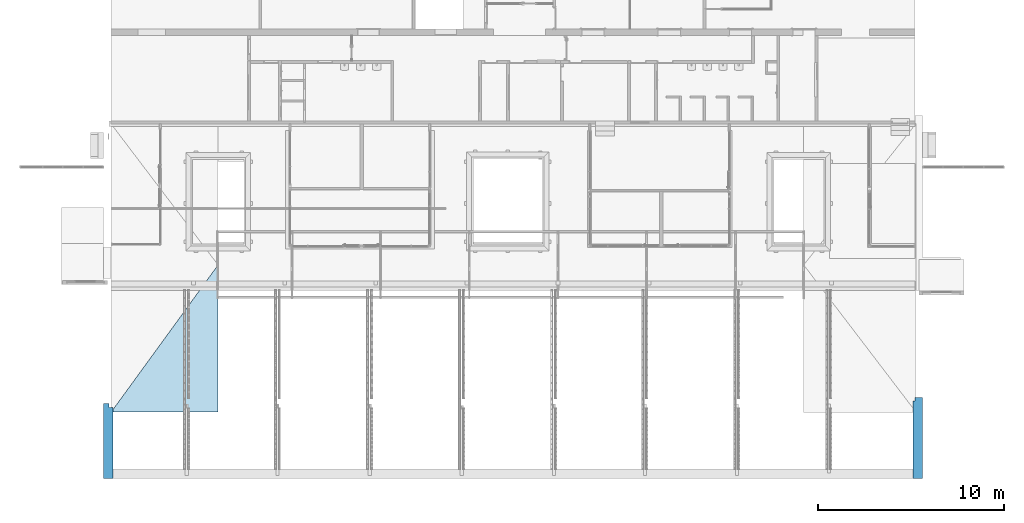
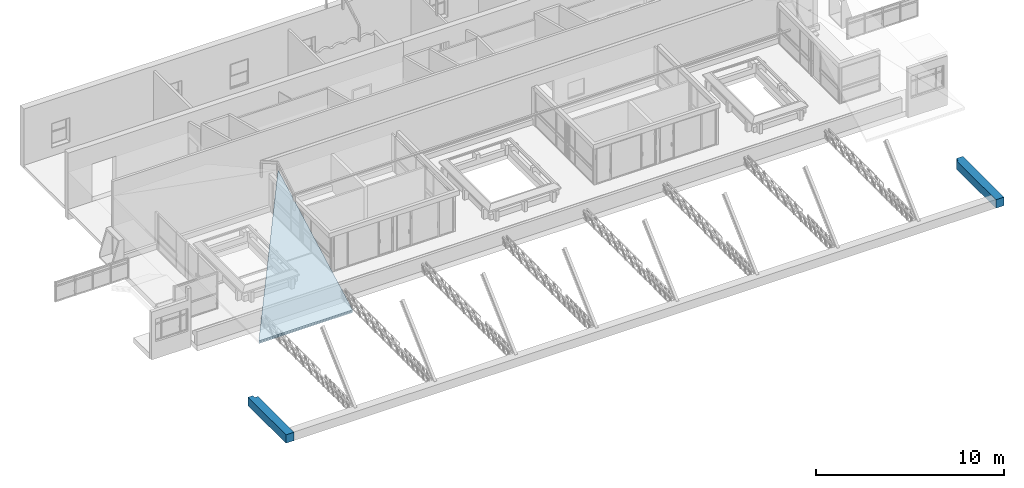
# One storey, part 101 of 153: 2 beams, 1 slab, 1 element without a shape of its own.
"""IFC4 building model written with IfcOpenShell, lengths in metres."""

from ifc_helpers import new_model, entity, si_unit, converted_unit, derived_unit, direction, frame, origin, place, context, subcontext, project, spatial, indexed_curve, outline, extrude, polygons, source, transform, mapped, material, constituent, constituent_set, type_object, type_shapes, element, aggregate, save


model = new_model("IFC4")

# Units and contexts
model_context = context("Model", 3, precision=1e-05, world=origin(), true_north=direction((6.123031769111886e-17, 1.0)))
body_context = subcontext(model_context, "Body", "Model", "MODEL_VIEW")
ifc_project = project(units=[si_unit("LENGTHUNIT", "METRE"), si_unit("AREAUNIT", "SQUARE_METRE"), si_unit("VOLUMEUNIT", "CUBIC_METRE"), converted_unit("PLANEANGLEUNIT", "DEGREE", entity("IfcRatioMeasure", 0.017453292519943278), si_unit("PLANEANGLEUNIT", "RADIAN"), dimensions=[0, 0, 0, 0, 0, 0, 0]), si_unit("MASSUNIT", "GRAM", prefix="KILO"), derived_unit("MASSDENSITYUNIT", [(si_unit("MASSUNIT", "GRAM", prefix="KILO"), 1), (si_unit("LENGTHUNIT", "METRE"), -3)]), derived_unit("MOMENTOFINERTIAUNIT", [(si_unit("LENGTHUNIT", "METRE"), 4)]), si_unit("TIMEUNIT", "SECOND"), si_unit("FREQUENCYUNIT", "HERTZ"), si_unit("THERMODYNAMICTEMPERATUREUNIT", "DEGREE_CELSIUS"), derived_unit("THERMALTRANSMITTANCEUNIT", [(si_unit("MASSUNIT", "GRAM", prefix="KILO"), 1), (si_unit("THERMODYNAMICTEMPERATUREUNIT", "KELVIN"), -1), (si_unit("TIMEUNIT", "SECOND"), -3)]), derived_unit("VOLUMETRICFLOWRATEUNIT", [(si_unit("LENGTHUNIT", "METRE"), 3), (si_unit("TIMEUNIT", "SECOND"), -1)]), derived_unit("MASSFLOWRATEUNIT", [(si_unit("MASSUNIT", "GRAM", prefix="KILO"), 1), (si_unit("TIMEUNIT", "SECOND"), -1)]), derived_unit("ROTATIONALFREQUENCYUNIT", [(si_unit("TIMEUNIT", "SECOND"), -1)]), si_unit("ELECTRICCURRENTUNIT", "AMPERE"), si_unit("ELECTRICVOLTAGEUNIT", "VOLT"), si_unit("POWERUNIT", "WATT"), si_unit("FORCEUNIT", "NEWTON", prefix="KILO"), si_unit("ILLUMINANCEUNIT", "LUX"), si_unit("LUMINOUSFLUXUNIT", "LUMEN"), si_unit("LUMINOUSINTENSITYUNIT", "CANDELA"), derived_unit("USERDEFINED", [(si_unit("MASSUNIT", "GRAM", prefix="KILO"), -1), (si_unit("LENGTHUNIT", "METRE"), -2), (si_unit("TIMEUNIT", "SECOND"), 3), (si_unit("LUMINOUSFLUXUNIT", "LUMEN"), 1)]), derived_unit("SOUNDPOWERUNIT", [(si_unit("MASSUNIT", "GRAM", prefix="KILO"), 1), (si_unit("LENGTHUNIT", "METRE"), 2), (si_unit("TIMEUNIT", "SECOND"), -3)]), derived_unit("SOUNDPRESSUREUNIT", [(si_unit("MASSUNIT", "GRAM", prefix="KILO"), 1), (si_unit("LENGTHUNIT", "METRE"), -1), (si_unit("TIMEUNIT", "SECOND"), -2)]), derived_unit("LINEARVELOCITYUNIT", [(si_unit("LENGTHUNIT", "METRE"), 1), (si_unit("TIMEUNIT", "SECOND"), -1)]), si_unit("PRESSUREUNIT", "PASCAL"), derived_unit("USERDEFINED", [(si_unit("LENGTHUNIT", "METRE"), -2), (si_unit("MASSUNIT", "GRAM", prefix="KILO"), 1), (si_unit("TIMEUNIT", "SECOND"), -2)]), derived_unit("LINEARFORCEUNIT", [(si_unit("MASSUNIT", "GRAM", prefix="KILO"), 1), (si_unit("LENGTHUNIT", "METRE"), 1), (si_unit("TIMEUNIT", "SECOND"), -2), (si_unit("LENGTHUNIT", "METRE"), -1)]), derived_unit("PLANARFORCEUNIT", [(si_unit("MASSUNIT", "GRAM", prefix="KILO"), 1), (si_unit("LENGTHUNIT", "METRE"), 1), (si_unit("TIMEUNIT", "SECOND"), -2), (si_unit("LENGTHUNIT", "METRE"), -2)])], contexts=[model_context])

# Site, building, storey
site_placement = place(None, origin())
site = spatial("IfcSite", under=ifc_project, at=site_placement, Name="Superficie", CompositionType="ELEMENT")
building_placement = place(site_placement, origin())
building = spatial("IfcBuilding", under=site, at=building_placement, CompositionType="ELEMENT")
storey_placement = place(building_placement, frame((0.0, 0.0, 3.5999999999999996)))
storey = spatial("IfcBuildingStorey", under=building, at=storey_placement, Name="Nivel 1", CompositionType="ELEMENT", Elevation=3.5999999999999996)

# Beams
ifc_material_1 = material(Name="<Unnamed>")
beam_type_1 = type_object("IfcBeamType", Name="Hormigón-Viga rectangular:500 x 550mm 2", PredefinedType="BEAM", material=ifc_material_1)
shared_shape_1 = source(origin(), body_context, "Body", "Tessellation", [
    polygons([(0.4999999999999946, 0.0, 0.55), (-4.331468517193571e-15, 0.0, 0.55), (-4.331468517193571e-15, 0.0, -5.414335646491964e-16), (0.49999999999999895, 0.0, 5.414335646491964e-16), (0.5000000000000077, 4.355400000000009, 0.55), (0.5000000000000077, 4.355400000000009, 5.414335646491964e-16), (0.10000000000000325, 4.355400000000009, -5.414335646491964e-16), (0.10000000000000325, 4.355400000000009, 0.55), (0.10000000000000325, 4.157699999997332, 0.55), (4.331468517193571e-15, 4.157699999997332, 0.55), (4.331468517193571e-15, 4.157699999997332, 5.414335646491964e-16), (0.10000000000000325, 4.157699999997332, 5.414335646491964e-16)], [[[1, 2, 3, 4]], [[5, 6, 7, 8]], [[2, 1, 5, 8, 9, 10]], [[3, 2, 10, 11]], [[4, 3, 11, 12, 7, 6]], [[1, 4, 6, 5]], [[9, 12, 11, 10]], [[12, 9, 8, 7]]], closed=True),
])
type_shapes(beam_type_1, [shared_shape_1])
beam_1_placement = place(storey_placement, frame((20.486799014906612, -13.451870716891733, -0.05000000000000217)))
element("IfcBeam", 1, at=beam_1_placement, inside=storey, type_object=beam_type_1, material=ifc_material_1, Name="Hormigón-Viga rectangular:500 x 550mm 2", ObjectType="Hormigón-Viga rectangular:500 x 550mm 2", PredefinedType="BEAM", context=body_context, shape_type="MappedRepresentation", body=[
    mapped(shared_shape_1, transform((0.0, 0.0, 0.0), scale=1.0)),
])
beam_type_2 = type_object("IfcBeamType", Name="Hormigón-Viga rectangular:500 x 550mm 2", PredefinedType="BEAM", material=ifc_material_1)
shared_shape_2 = source(origin(), body_context, "Body", "Tessellation", [
    polygons([(0.5000000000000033, 0.0, 0.55), (0.0, 0.0, 0.55), (0.0, 0.0, -5.414335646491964e-16), (0.5000000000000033, 0.0, 5.414335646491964e-16), (8.662937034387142e-15, 4.025400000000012, -5.414335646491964e-16), (8.662937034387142e-15, 4.025400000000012, 0.55), (0.28999999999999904, 4.025400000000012, 0.55), (0.28999999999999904, 4.025400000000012, -5.414335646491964e-16), (0.5000000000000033, 3.827700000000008, 0.55), (0.28999999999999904, 3.827700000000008, 0.55), (0.28999999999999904, 3.827700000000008, -5.414335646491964e-16), (0.5000000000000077, 3.827700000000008, 5.414335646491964e-16)], [[[1, 2, 3, 4]], [[5, 6, 7, 8]], [[2, 1, 9, 10, 7, 6]], [[3, 2, 6, 5]], [[4, 3, 5, 8, 11, 12]], [[1, 4, 12, 9]], [[11, 10, 9, 12]], [[10, 11, 8, 7]]], closed=True),
])
type_shapes(beam_type_2, [shared_shape_2])
beam_2_placement = place(storey_placement, frame((-23.043200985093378, -13.451870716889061, -0.05000000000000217)))
element("IfcBeam", 2, at=beam_2_placement, inside=storey, type_object=beam_type_2, material=ifc_material_1, Name="Hormigón-Viga rectangular:500 x 550mm 2", ObjectType="Hormigón-Viga rectangular:500 x 550mm 2", PredefinedType="BEAM", context=body_context, shape_type="MappedRepresentation", body=[
    mapped(shared_shape_2, transform((0.0, 0.0, 0.0), scale=1.0)),
])

# Roof, slab
roof_placement = place(storey_placement, frame((-22.643200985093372, -9.877877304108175, 4.107718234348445)))
roof = element("IfcRoof", 3, at=roof_placement, inside=storey, Name="Cubierta básica:Plana tipo deck - 16 cm", ObjectType="Cubierta básica:Plana tipo deck - 16 cm", PredefinedType="NOTDEFINED")
ifc_material_2 = material(Name="Aislamiento térmico", Category="Varios")
ifc_constituent_1 = constituent(ifc_material_2, Name="Aislamiento térmico", Category="Varios")
ifc_material_3 = material(Name="Metal - Chapado (1)", Category="Metal")
ifc_constituent_2 = constituent(ifc_material_3, Name="Metal - Chapado (1)", Category="Metal")
ifc_constituent_set = constituent_set(constituents=[ifc_constituent_1, ifc_constituent_2], Name="Cubierta básica:Plana tipo deck - 16 cm")
slab_type = type_object("IfcSlabType", Name="Cubierta básica:Plana tipo deck - 16 cm", PredefinedType="ROOF")
slab_placement = place(roof_placement, origin())
slab = element("IfcSlab", 4, at=slab_placement, type_object=slab_type, material=ifc_constituent_set, Name="Cubierta básica:Plana tipo deck - 16 cm", ObjectType="Cubierta básica:Plana tipo deck - 16 cm", PredefinedType="ROOF", context=body_context, shape_type="SweptSolid", body=[
    extrude(outline(indexed_curve([(-2.8750004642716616, -4.498351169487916), (2.875000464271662, -4.4965853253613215), (2.875000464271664, 4.498351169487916), (-2.8750004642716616, -4.498351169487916)], self_intersect=False)), frame((2.874999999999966, 3.9567115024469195, 2.1400000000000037), z_axis=(-0.0005683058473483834, -0.47541024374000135, 0.8797640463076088), x_axis=(0.9999998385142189, -0.0002701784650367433, 0.0004999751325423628)), (0.0004999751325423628, 0.47541032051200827, 0.8797640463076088), 0.08),
    extrude(outline(indexed_curve([(-2.8750004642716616, -4.498351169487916), (2.875000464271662, -4.4965853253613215), (2.875000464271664, 4.498351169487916), (-2.8750004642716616, -4.498351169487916)], self_intersect=False)), frame((2.874999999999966, 3.9567115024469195, 2.230933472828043), z_axis=(-0.0005683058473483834, -0.47541024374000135, 0.8797640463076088), x_axis=(0.9999998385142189, -0.0002701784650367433, 0.0004999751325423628)), (0.0004999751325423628, 0.47541032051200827, 0.8797640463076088), 0.08),
])
aggregate(roof, [slab])

save(model, "model.ifc")
